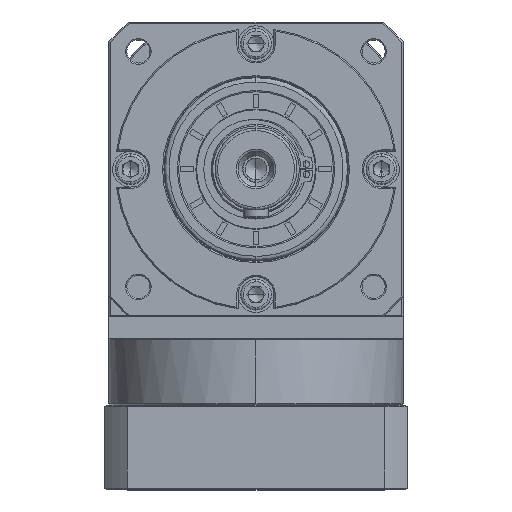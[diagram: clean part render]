
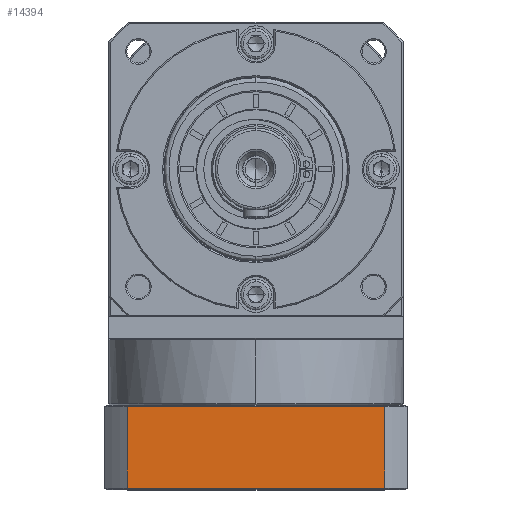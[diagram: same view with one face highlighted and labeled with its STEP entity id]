
A CAD part, top view. The second image highlights one B-rep face of the part: STEP entity #14394.
In plain terms, the highlighted planar face has unit normal (0, 0, 1).
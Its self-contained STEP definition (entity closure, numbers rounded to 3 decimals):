
#1364 = EDGE_CURVE ( 'NONE', #139860, #123656, #67942, .T. ) ;
#7108 = CARTESIAN_POINT ( 'NONE',  ( 132.897, 168.408, 239.4 ) ) ;
#14394 = ADVANCED_FACE ( 'NONE', ( #151321 ), #153011, .F. ) ;
#16894 = CARTESIAN_POINT ( 'NONE',  ( 132.897, -85.487, 239.4 ) ) ;
#27685 = DIRECTION ( 'NONE',  ( 1., 0., 0. ) ) ;
#32278 = CARTESIAN_POINT ( 'NONE',  ( 23.645, -85.987, 239.4 ) ) ;
#41785 = CARTESIAN_POINT ( 'NONE',  ( 23.645, -53.487, 239.4 ) ) ;
#41898 = ORIENTED_EDGE ( 'NONE', *, *, #1364, .F. ) ;
#45928 = DIRECTION ( 'NONE',  ( -1., 0., 0. ) ) ;
#49111 = DIRECTION ( 'NONE',  ( -1., 0., 0. ) ) ;
#54787 = EDGE_CURVE ( 'NONE', #152353, #139860, #173397, .T. ) ;
#67942 = LINE ( 'NONE', #7108, #139505 ) ;
#68359 = AXIS2_PLACEMENT_3D ( 'NONE', #32278, #126562, #45928 ) ;
#69420 = CARTESIAN_POINT ( 'NONE',  ( 32.393, -85.987, 239.4 ) ) ;
#70926 = EDGE_CURVE ( 'NONE', #123656, #94216, #81018, .T. ) ;
#72085 = CARTESIAN_POINT ( 'NONE',  ( 32.393, -53.487, 239.4 ) ) ;
#81018 = LINE ( 'NONE', #105655, #152484 ) ;
#86343 = CARTESIAN_POINT ( 'NONE',  ( 32.393, -85.487, 239.4 ) ) ;
#90051 = LINE ( 'NONE', #69420, #157265 ) ;
#94216 = VERTEX_POINT ( 'NONE', #86343 ) ;
#96051 = DIRECTION ( 'NONE',  ( 0., 1., 0. ) ) ;
#105655 = CARTESIAN_POINT ( 'NONE',  ( 23.645, -85.487, 239.4 ) ) ;
#119154 = EDGE_CURVE ( 'NONE', #94216, #152353, #90051, .T. ) ;
#123656 = VERTEX_POINT ( 'NONE', #16894 ) ;
#126562 = DIRECTION ( 'NONE',  ( 0., 0., -1. ) ) ;
#127617 = CARTESIAN_POINT ( 'NONE',  ( 132.897, -53.487, 239.4 ) ) ;
#128392 = DIRECTION ( 'NONE',  ( 0., -1., 0. ) ) ;
#137674 = VECTOR ( 'NONE', #27685, 1000. ) ;
#139505 = VECTOR ( 'NONE', #128392, 1000. ) ;
#139860 = VERTEX_POINT ( 'NONE', #127617 ) ;
#146736 = ORIENTED_EDGE ( 'NONE', *, *, #119154, .F. ) ;
#151321 = FACE_OUTER_BOUND ( 'NONE', #167368, .T. ) ;
#152353 = VERTEX_POINT ( 'NONE', #72085 ) ;
#152484 = VECTOR ( 'NONE', #49111, 1000. ) ;
#153011 = PLANE ( 'NONE',  #68359 ) ;
#157162 = ORIENTED_EDGE ( 'NONE', *, *, #54787, .F. ) ;
#157265 = VECTOR ( 'NONE', #96051, 1000. ) ;
#167368 = EDGE_LOOP ( 'NONE', ( #41898, #157162, #146736, #173902 ) ) ;
#173397 = LINE ( 'NONE', #41785, #137674 ) ;
#173902 = ORIENTED_EDGE ( 'NONE', *, *, #70926, .F. ) ;
